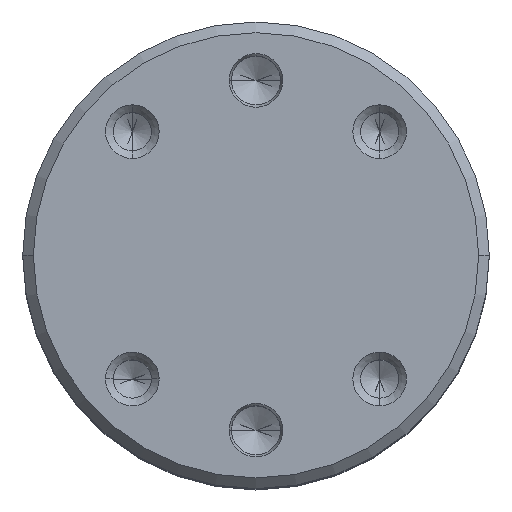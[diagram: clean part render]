
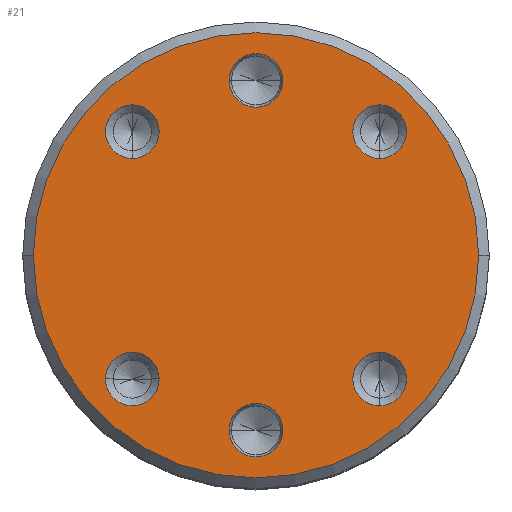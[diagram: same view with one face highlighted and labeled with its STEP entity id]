
A CAD part, top view. The second image highlights one B-rep face of the part: STEP entity #21.
In plain terms, the highlighted planar face has unit normal (0, 0, 1).
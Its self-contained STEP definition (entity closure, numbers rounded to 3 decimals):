
#21 = ADVANCED_FACE ( 'NONE', ( #498, #97, #1686, #2050, #211, #2021, #578 ), #528, .F. ) ;
#35 = EDGE_CURVE ( 'NONE', #2053, #864, #1161, .T. ) ;
#46 = EDGE_LOOP ( 'NONE', ( #1915, #1182 ) ) ;
#59 = DIRECTION ( 'NONE',  ( 1., 0., 0. ) ) ;
#72 = EDGE_LOOP ( 'NONE', ( #2215, #1048 ) ) ;
#73 = EDGE_LOOP ( 'NONE', ( #649, #1996 ) ) ;
#85 = CARTESIAN_POINT ( 'NONE',  ( -8.082, -8.082, 25.4 ) ) ;
#95 = CARTESIAN_POINT ( 'NONE',  ( -8.082, 6.332, 25.4 ) ) ;
#97 = FACE_BOUND ( 'NONE', #72, .T. ) ;
#128 = CARTESIAN_POINT ( 'NONE',  ( -6.332, -8.082, 25.4 ) ) ;
#155 = CARTESIAN_POINT ( 'NONE',  ( 8.082, -8.082, 25.4 ) ) ;
#160 = DIRECTION ( 'NONE',  ( 0., 0., 1. ) ) ;
#208 = AXIS2_PLACEMENT_3D ( 'NONE', #1938, #516, #1059 ) ;
#211 = FACE_BOUND ( 'NONE', #553, .T. ) ;
#220 = ORIENTED_EDGE ( 'NONE', *, *, #1065, .T. ) ;
#262 = CARTESIAN_POINT ( 'NONE',  ( 8.082, 8.082, 25.4 ) ) ;
#284 = EDGE_CURVE ( 'NONE', #398, #1091, #1781, .T. ) ;
#317 = CARTESIAN_POINT ( 'NONE',  ( 8.082, 6.332, 25.4 ) ) ;
#333 = CARTESIAN_POINT ( 'NONE',  ( 14.55, 0., 25.4 ) ) ;
#345 = EDGE_CURVE ( 'NONE', #1562, #1549, #675, .T. ) ;
#363 = AXIS2_PLACEMENT_3D ( 'NONE', #262, #2178, #1820 ) ;
#398 = VERTEX_POINT ( 'NONE', #1010 ) ;
#399 = AXIS2_PLACEMENT_3D ( 'NONE', #1666, #1831, #2187 ) ;
#403 = DIRECTION ( 'NONE',  ( 0., 0., 1. ) ) ;
#410 = DIRECTION ( 'NONE',  ( 0., -1., 0. ) ) ;
#419 = CARTESIAN_POINT ( 'NONE',  ( 0., -11.43, 25.4 ) ) ;
#428 = CARTESIAN_POINT ( 'NONE',  ( -8.082, 8.082, 25.4 ) ) ;
#447 = AXIS2_PLACEMENT_3D ( 'NONE', #1169, #1006, #1014 ) ;
#467 = AXIS2_PLACEMENT_3D ( 'NONE', #1303, #1310, #410 ) ;
#498 = FACE_BOUND ( 'NONE', #46, .T. ) ;
#516 = DIRECTION ( 'NONE',  ( 0., 0., -1. ) ) ;
#522 = EDGE_CURVE ( 'NONE', #864, #2053, #2270, .T. ) ;
#528 = PLANE ( 'NONE',  #208 ) ;
#529 = CARTESIAN_POINT ( 'NONE',  ( 0., 0., 25.4 ) ) ;
#536 = ORIENTED_EDGE ( 'NONE', *, *, #522, .F. ) ;
#545 = ORIENTED_EDGE ( 'NONE', *, *, #1792, .F. ) ;
#553 = EDGE_LOOP ( 'NONE', ( #843, #2159 ) ) ;
#558 = AXIS2_PLACEMENT_3D ( 'NONE', #419, #403, #59 ) ;
#578 = FACE_OUTER_BOUND ( 'NONE', #2152, .T. ) ;
#602 = DIRECTION ( 'NONE',  ( 0., -1., 0. ) ) ;
#617 = CARTESIAN_POINT ( 'NONE',  ( 0., -11.43, 25.4 ) ) ;
#624 = VERTEX_POINT ( 'NONE', #1332 ) ;
#649 = ORIENTED_EDGE ( 'NONE', *, *, #861, .F. ) ;
#675 = CIRCLE ( 'NONE', #1154, 1.75 ) ;
#703 = CARTESIAN_POINT ( 'NONE',  ( -14.55, 0., 25.4 ) ) ;
#707 = AXIS2_PLACEMENT_3D ( 'NONE', #1189, #2058, #1697 ) ;
#718 = CIRCLE ( 'NONE', #2035, 14.55 ) ;
#768 = CARTESIAN_POINT ( 'NONE',  ( 8.082, -6.332, 25.4 ) ) ;
#813 = EDGE_CURVE ( 'NONE', #1387, #1452, #879, .T. ) ;
#830 = EDGE_CURVE ( 'NONE', #1452, #1387, #1077, .T. ) ;
#837 = CIRCLE ( 'NONE', #1565, 1.75 ) ;
#843 = ORIENTED_EDGE ( 'NONE', *, *, #830, .F. ) ;
#861 = EDGE_CURVE ( 'NONE', #1598, #1229, #1759, .T. ) ;
#864 = VERTEX_POINT ( 'NONE', #768 ) ;
#879 = CIRCLE ( 'NONE', #399, 1.75 ) ;
#894 = EDGE_CURVE ( 'NONE', #1229, #1598, #1103, .T. ) ;
#951 = CIRCLE ( 'NONE', #447, 1.75 ) ;
#958 = DIRECTION ( 'NONE',  ( 1., 0., 0. ) ) ;
#959 = AXIS2_PLACEMENT_3D ( 'NONE', #617, #1479, #1315 ) ;
#1003 = CARTESIAN_POINT ( 'NONE',  ( 8.082, -9.832, 25.4 ) ) ;
#1006 = DIRECTION ( 'NONE',  ( 0., 0., 1. ) ) ;
#1009 = AXIS2_PLACEMENT_3D ( 'NONE', #529, #1593, #1404 ) ;
#1010 = CARTESIAN_POINT ( 'NONE',  ( -1.75, -11.43, 25.4 ) ) ;
#1014 = DIRECTION ( 'NONE',  ( 1., 0., 0. ) ) ;
#1022 = CARTESIAN_POINT ( 'NONE',  ( -8.082, -8.082, 25.4 ) ) ;
#1033 = DIRECTION ( 'NONE',  ( 0., 0., 1. ) ) ;
#1048 = ORIENTED_EDGE ( 'NONE', *, *, #1732, .F. ) ;
#1059 = DIRECTION ( 'NONE',  ( -1., 0., 0. ) ) ;
#1065 = EDGE_CURVE ( 'NONE', #1793, #2134, #718, .T. ) ;
#1077 = CIRCLE ( 'NONE', #1587, 1.75 ) ;
#1091 = VERTEX_POINT ( 'NONE', #1773 ) ;
#1103 = CIRCLE ( 'NONE', #467, 1.75 ) ;
#1154 = AXIS2_PLACEMENT_3D ( 'NONE', #85, #1311, #958 ) ;
#1161 = CIRCLE ( 'NONE', #1840, 1.75 ) ;
#1169 = CARTESIAN_POINT ( 'NONE',  ( 0., 11.43, 25.4 ) ) ;
#1182 = ORIENTED_EDGE ( 'NONE', *, *, #284, .F. ) ;
#1189 = CARTESIAN_POINT ( 'NONE',  ( 0., 11.43, 25.4 ) ) ;
#1200 = VERTEX_POINT ( 'NONE', #1943 ) ;
#1229 = VERTEX_POINT ( 'NONE', #2150 ) ;
#1303 = CARTESIAN_POINT ( 'NONE',  ( 8.082, 8.082, 25.4 ) ) ;
#1310 = DIRECTION ( 'NONE',  ( 0., 0., 1. ) ) ;
#1311 = DIRECTION ( 'NONE',  ( 0., 0., 1. ) ) ;
#1315 = DIRECTION ( 'NONE',  ( 1., 0., 0. ) ) ;
#1332 = CARTESIAN_POINT ( 'NONE',  ( 1.75, 11.43, 25.4 ) ) ;
#1366 = CARTESIAN_POINT ( 'NONE',  ( -8.082, 9.832, 25.4 ) ) ;
#1387 = VERTEX_POINT ( 'NONE', #1366 ) ;
#1391 = EDGE_LOOP ( 'NONE', ( #2026, #536 ) ) ;
#1404 = DIRECTION ( 'NONE',  ( -1., 0., 0. ) ) ;
#1406 = CIRCLE ( 'NONE', #707, 1.75 ) ;
#1452 = VERTEX_POINT ( 'NONE', #95 ) ;
#1459 = DIRECTION ( 'NONE',  ( 0., 0., 1. ) ) ;
#1479 = DIRECTION ( 'NONE',  ( 0., 0., 1. ) ) ;
#1480 = DIRECTION ( 'NONE',  ( 0., -1., 0. ) ) ;
#1549 = VERTEX_POINT ( 'NONE', #2172 ) ;
#1561 = CIRCLE ( 'NONE', #1009, 14.55 ) ;
#1562 = VERTEX_POINT ( 'NONE', #128 ) ;
#1565 = AXIS2_PLACEMENT_3D ( 'NONE', #1022, #160, #1729 ) ;
#1567 = DIRECTION ( 'NONE',  ( 0., -1., 0. ) ) ;
#1569 = EDGE_LOOP ( 'NONE', ( #1739, #545 ) ) ;
#1578 = DIRECTION ( 'NONE',  ( -1., 0., 0. ) ) ;
#1587 = AXIS2_PLACEMENT_3D ( 'NONE', #428, #1634, #602 ) ;
#1593 = DIRECTION ( 'NONE',  ( 0., 0., 1. ) ) ;
#1598 = VERTEX_POINT ( 'NONE', #317 ) ;
#1634 = DIRECTION ( 'NONE',  ( 0., 0., 1. ) ) ;
#1666 = CARTESIAN_POINT ( 'NONE',  ( -8.082, 8.082, 25.4 ) ) ;
#1686 = FACE_BOUND ( 'NONE', #1391, .T. ) ;
#1697 = DIRECTION ( 'NONE',  ( 1., 0., 0. ) ) ;
#1729 = DIRECTION ( 'NONE',  ( 1., 0., 0. ) ) ;
#1732 = EDGE_CURVE ( 'NONE', #1200, #624, #951, .T. ) ;
#1739 = ORIENTED_EDGE ( 'NONE', *, *, #345, .F. ) ;
#1759 = CIRCLE ( 'NONE', #363, 1.75 ) ;
#1773 = CARTESIAN_POINT ( 'NONE',  ( 1.75, -11.43, 25.4 ) ) ;
#1781 = CIRCLE ( 'NONE', #558, 1.75 ) ;
#1792 = EDGE_CURVE ( 'NONE', #1549, #1562, #837, .T. ) ;
#1793 = VERTEX_POINT ( 'NONE', #333 ) ;
#1820 = DIRECTION ( 'NONE',  ( 0., -1., 0. ) ) ;
#1827 = EDGE_CURVE ( 'NONE', #1091, #398, #2191, .T. ) ;
#1831 = DIRECTION ( 'NONE',  ( 0., 0., 1. ) ) ;
#1840 = AXIS2_PLACEMENT_3D ( 'NONE', #155, #1459, #1480 ) ;
#1915 = ORIENTED_EDGE ( 'NONE', *, *, #1827, .F. ) ;
#1938 = CARTESIAN_POINT ( 'NONE',  ( 0., 0., 25.4 ) ) ;
#1943 = CARTESIAN_POINT ( 'NONE',  ( -1.75, 11.43, 25.4 ) ) ;
#1951 = EDGE_CURVE ( 'NONE', #624, #1200, #1406, .T. ) ;
#1990 = ORIENTED_EDGE ( 'NONE', *, *, #2230, .T. ) ;
#1996 = ORIENTED_EDGE ( 'NONE', *, *, #894, .F. ) ;
#2021 = FACE_BOUND ( 'NONE', #1569, .T. ) ;
#2026 = ORIENTED_EDGE ( 'NONE', *, *, #35, .F. ) ;
#2035 = AXIS2_PLACEMENT_3D ( 'NONE', #2100, #1033, #1578 ) ;
#2050 = FACE_BOUND ( 'NONE', #73, .T. ) ;
#2053 = VERTEX_POINT ( 'NONE', #1003 ) ;
#2058 = DIRECTION ( 'NONE',  ( 0., 0., 1. ) ) ;
#2100 = CARTESIAN_POINT ( 'NONE',  ( 0., 0., 25.4 ) ) ;
#2134 = VERTEX_POINT ( 'NONE', #703 ) ;
#2150 = CARTESIAN_POINT ( 'NONE',  ( 8.082, 9.832, 25.4 ) ) ;
#2152 = EDGE_LOOP ( 'NONE', ( #1990, #220 ) ) ;
#2159 = ORIENTED_EDGE ( 'NONE', *, *, #813, .F. ) ;
#2172 = CARTESIAN_POINT ( 'NONE',  ( -9.832, -8.082, 25.4 ) ) ;
#2176 = AXIS2_PLACEMENT_3D ( 'NONE', #2272, #2264, #1567 ) ;
#2178 = DIRECTION ( 'NONE',  ( 0., 0., 1. ) ) ;
#2187 = DIRECTION ( 'NONE',  ( 0., -1., 0. ) ) ;
#2191 = CIRCLE ( 'NONE', #959, 1.75 ) ;
#2215 = ORIENTED_EDGE ( 'NONE', *, *, #1951, .F. ) ;
#2230 = EDGE_CURVE ( 'NONE', #2134, #1793, #1561, .T. ) ;
#2264 = DIRECTION ( 'NONE',  ( 0., 0., 1. ) ) ;
#2270 = CIRCLE ( 'NONE', #2176, 1.75 ) ;
#2272 = CARTESIAN_POINT ( 'NONE',  ( 8.082, -8.082, 25.4 ) ) ;
